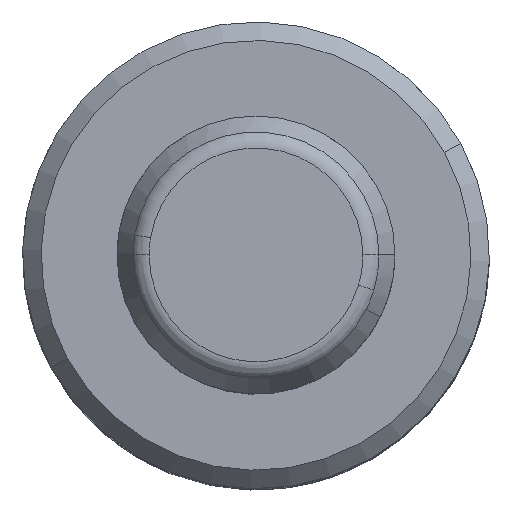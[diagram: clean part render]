
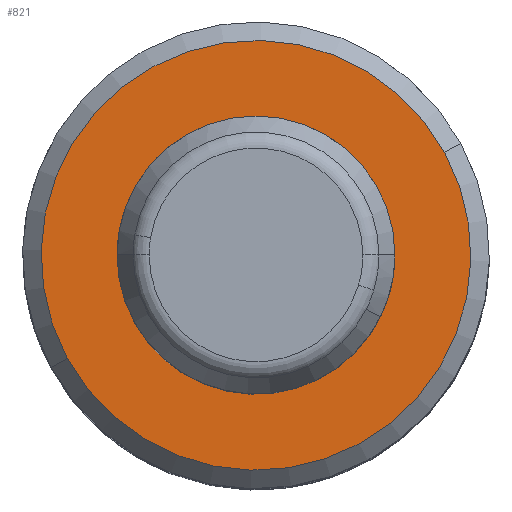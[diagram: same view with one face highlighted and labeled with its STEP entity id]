
A CAD part, top view. The second image highlights one B-rep face of the part: STEP entity #821.
In plain terms, the highlighted planar face has unit normal (0, 0, 1).
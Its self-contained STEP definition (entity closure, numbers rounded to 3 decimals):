
#769=CARTESIAN_POINT('Axis2P3D Location',(0.,0.,41.)) ;
#773=CARTESIAN_POINT('Vertex',(10.18,5.561,41.)) ;
#775=CARTESIAN_POINT('Vertex',(-10.18,-5.561,41.)) ;
#800=CARTESIAN_POINT('Axis2P3D Location',(0.,0.,41.)) ;
#812=CARTESIAN_POINT('Axis2P3D Location',(11.6,0.,41.)) ;
#770=DIRECTION('Axis2P3D Direction',(0.,0.,-1.)) ;
#801=DIRECTION('Axis2P3D Direction',(0.,0.,-1.)) ;
#813=DIRECTION('Axis2P3D Direction',(0.,0.,1.)) ;
#814=DIRECTION('Axis2P3D XDirection',(1.,0.,0.)) ;
#771=AXIS2_PLACEMENT_3D('Circle Axis2P3D',#769,#770,$) ;
#802=AXIS2_PLACEMENT_3D('Circle Axis2P3D',#800,#801,$) ;
#815=AXIS2_PLACEMENT_3D('Plane Axis2P3D',#812,#813,#814) ;
#818=ORIENTED_EDGE('',*,*,#777,.T.) ;
#819=ORIENTED_EDGE('',*,*,#804,.T.) ;
#821=ADVANCED_FACE('',(#820),#816,.T.) ;
#772=CIRCLE('generated circle',#771,11.6) ;
#803=CIRCLE('generated circle',#802,11.6) ;
#777=EDGE_CURVE('',#774,#776,#772,.F.) ;
#804=EDGE_CURVE('',#776,#774,#803,.F.) ;
#817=EDGE_LOOP('',(#818,#819)) ;
#820=FACE_OUTER_BOUND('',#817,.T.) ;
#816=PLANE('Plane',#815) ;
#774=VERTEX_POINT('',#773) ;
#776=VERTEX_POINT('',#775) ;
